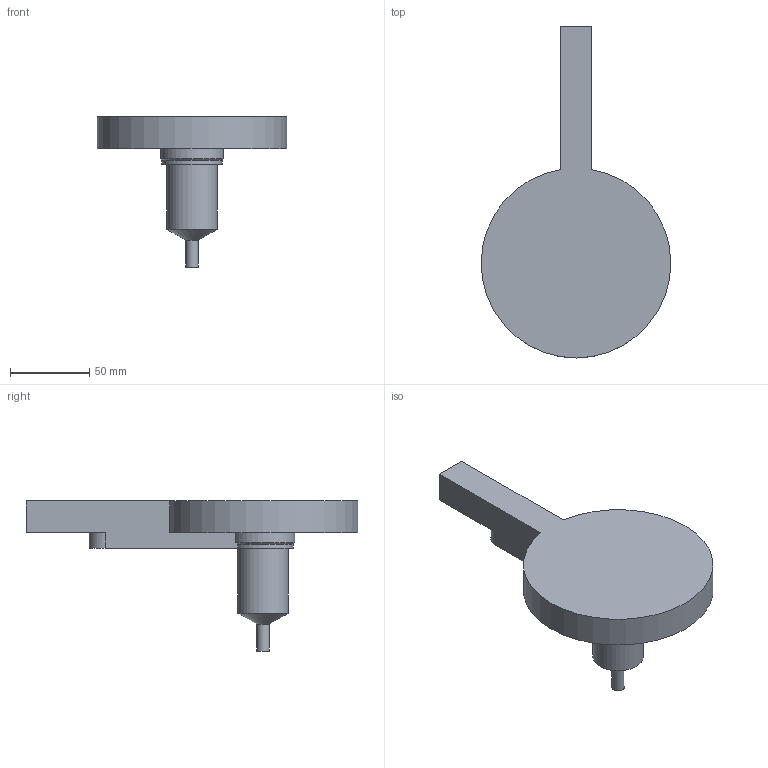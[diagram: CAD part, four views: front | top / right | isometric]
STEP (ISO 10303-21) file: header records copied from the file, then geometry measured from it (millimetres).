
FILE_DESCRIPTION( ( 'STEP AP214' ), '1' );
FILE_NAME( 'Z:/PROIECTE_YUDO_2009_dupa_1.07.2009/PROIECTE YUDO 3D 01.07.2009/BIS/YUEU09-BIS18TLC075/YUEU09-BIS18TLC075_CutOut.step', '2009-12-04T09:28:59', ( ' ' ), ( ' ' ), 'XStep 1.0', ' ', ' ' );
FILE_SCHEMA( ( 'automotive_design' ) );
Length unit declared in the file: millimetre
Products named in the file (1): 1
Bounding box: 120 x 210 x 95 mm (x, y, z)
Volume: 328635.2 mm3; surface area: 45018.2 mm2
Topology: 1 solids, 1 shells, 16 faces, 38 edges, 25 vertices
Faces by surface type: plane 8, cylinder 6, cone 2
Full cylindrical faces by diameter (mm): 8 x1, 32 x1
Entity records: 588 total; most frequent: CARTESIAN_POINT 81, DIRECTION 78, ORIENTED_EDGE 68, EDGE_CURVE 34, AXIS2_PLACEMENT_3D 29, VERTEX_POINT 24, EDGE_LOOP 20, LINE 20
